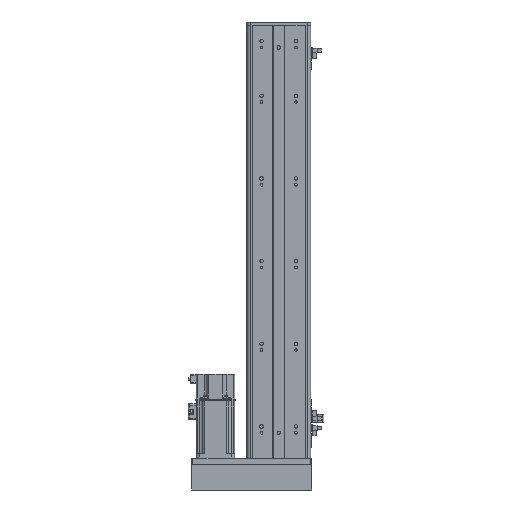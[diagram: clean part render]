
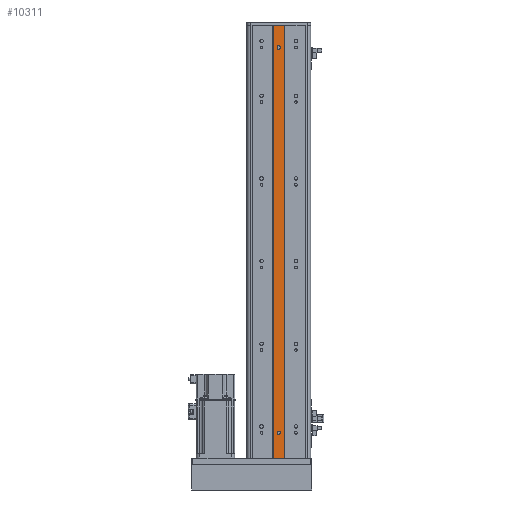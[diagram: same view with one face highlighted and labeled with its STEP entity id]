
A CAD part, front view. The second image highlights one B-rep face of the part: STEP entity #10311.
In plain terms, the highlighted planar face has unit normal (0, -1, 0).
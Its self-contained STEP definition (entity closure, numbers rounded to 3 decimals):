
#237 = DIRECTION ( 'NONE',  ( 0., 1., 0. ) ) ;
#933 = VERTEX_POINT ( 'NONE', #60445 ) ;
#1052 = DIRECTION ( 'NONE',  ( -1., 0., 0. ) ) ;
#1326 = CARTESIAN_POINT ( 'NONE',  ( 0., 1.309, 170. ) ) ;
#1438 = DIRECTION ( 'NONE',  ( 0., 0., -1. ) ) ;
#1920 = ORIENTED_EDGE ( 'NONE', *, *, #32756, .T. ) ;
#2873 = CIRCLE ( 'NONE', #29964, 2.5 ) ;
#3845 = EDGE_CURVE ( 'NONE', #18222, #20869, #33025, .T. ) ;
#4271 = CARTESIAN_POINT ( 'NONE',  ( -9., 1.309, 130. ) ) ;
#4452 = EDGE_CURVE ( 'NONE', #20869, #18222, #20469, .T. ) ;
#4936 = CARTESIAN_POINT ( 'NONE',  ( -9., 1.309, 811. ) ) ;
#5186 = AXIS2_PLACEMENT_3D ( 'NONE', #1326, #60218, #65109 ) ;
#5275 = VECTOR ( 'NONE', #25949, 1000. ) ;
#5305 = EDGE_LOOP ( 'NONE', ( #1920, #18020, #40534, #14090 ) ) ;
#5645 = VECTOR ( 'NONE', #22348, 1000. ) ;
#6003 = CARTESIAN_POINT ( 'NONE',  ( -2.5, 1.309, 170. ) ) ;
#6840 = ORIENTED_EDGE ( 'NONE', *, *, #3845, .T. ) ;
#7053 = EDGE_LOOP ( 'NONE', ( #66229, #12324, #13657, #33065 ) ) ;
#7779 = VECTOR ( 'NONE', #1052, 1000. ) ;
#8377 = CARTESIAN_POINT ( 'NONE',  ( -2.5, 1.309, 811. ) ) ;
#9167 = CARTESIAN_POINT ( 'NONE',  ( 2.5, 1.309, 811. ) ) ;
#10311 = ADVANCED_FACE ( 'NONE', ( #29485, #62158, #15306 ), #15610, .F. ) ;
#11482 = LINE ( 'NONE', #53445, #5645 ) ;
#12324 = ORIENTED_EDGE ( 'NONE', *, *, #68020, .F. ) ;
#12605 = CARTESIAN_POINT ( 'NONE',  ( -2.5, 1.309, 775.5 ) ) ;
#13498 = DIRECTION ( 'NONE',  ( 0., 0., 1. ) ) ;
#13657 = ORIENTED_EDGE ( 'NONE', *, *, #60267, .F. ) ;
#13760 = DIRECTION ( 'NONE',  ( 0., 0., 1. ) ) ;
#14090 = ORIENTED_EDGE ( 'NONE', *, *, #54229, .T. ) ;
#14256 = VECTOR ( 'NONE', #1438, 1000. ) ;
#15306 = FACE_OUTER_BOUND ( 'NONE', #7053, .T. ) ;
#15455 = DIRECTION ( 'NONE',  ( 0., 1., 0. ) ) ;
#15610 = PLANE ( 'NONE',  #16059 ) ;
#16059 = AXIS2_PLACEMENT_3D ( 'NONE', #26807, #237, #37528 ) ;
#16626 = CARTESIAN_POINT ( 'NONE',  ( -9., 1.309, 811. ) ) ;
#16975 = LINE ( 'NONE', #54515, #7779 ) ;
#18020 = ORIENTED_EDGE ( 'NONE', *, *, #54115, .T. ) ;
#18222 = VERTEX_POINT ( 'NONE', #6003 ) ;
#20099 = VECTOR ( 'NONE', #13498, 1000. ) ;
#20469 = CIRCLE ( 'NONE', #29800, 2.5 ) ;
#20869 = VERTEX_POINT ( 'NONE', #30436 ) ;
#20977 = LINE ( 'NONE', #4936, #14256 ) ;
#21784 = DIRECTION ( 'NONE',  ( 0., 0., 1. ) ) ;
#22221 = DIRECTION ( 'NONE',  ( 0., 1., 0. ) ) ;
#22348 = DIRECTION ( 'NONE',  ( 0., 0., -1. ) ) ;
#22678 = CARTESIAN_POINT ( 'NONE',  ( 0., 1.309, 775.5 ) ) ;
#22683 = DIRECTION ( 'NONE',  ( 0., 1., 0. ) ) ;
#22801 = LINE ( 'NONE', #9167, #5275 ) ;
#25798 = VERTEX_POINT ( 'NONE', #31034 ) ;
#25949 = DIRECTION ( 'NONE',  ( 0., 0., -1. ) ) ;
#26807 = CARTESIAN_POINT ( 'NONE',  ( 0., 1.309, 811. ) ) ;
#29485 = FACE_BOUND ( 'NONE', #5305, .T. ) ;
#29800 = AXIS2_PLACEMENT_3D ( 'NONE', #54705, #22683, #13760 ) ;
#29964 = AXIS2_PLACEMENT_3D ( 'NONE', #47897, #15455, #21784 ) ;
#30174 = VERTEX_POINT ( 'NONE', #46977 ) ;
#30436 = CARTESIAN_POINT ( 'NONE',  ( 2.5, 1.309, 170. ) ) ;
#31034 = CARTESIAN_POINT ( 'NONE',  ( -2.5, 1.309, 776.5 ) ) ;
#32756 = EDGE_CURVE ( 'NONE', #52299, #25798, #34236, .T. ) ;
#33025 = CIRCLE ( 'NONE', #5186, 2.5 ) ;
#33065 = ORIENTED_EDGE ( 'NONE', *, *, #65369, .T. ) ;
#34236 = LINE ( 'NONE', #8377, #20099 ) ;
#35574 = VERTEX_POINT ( 'NONE', #57527 ) ;
#35749 = CARTESIAN_POINT ( 'NONE',  ( -9., 1.309, 811. ) ) ;
#37244 = EDGE_CURVE ( 'NONE', #933, #59336, #16975, .T. ) ;
#37433 = EDGE_CURVE ( 'NONE', #30174, #44406, #22801, .T. ) ;
#37528 = DIRECTION ( 'NONE',  ( 0., 0., 1. ) ) ;
#40534 = ORIENTED_EDGE ( 'NONE', *, *, #37433, .T. ) ;
#43078 = VERTEX_POINT ( 'NONE', #16626 ) ;
#44406 = VERTEX_POINT ( 'NONE', #50583 ) ;
#45494 = ORIENTED_EDGE ( 'NONE', *, *, #4452, .T. ) ;
#46977 = CARTESIAN_POINT ( 'NONE',  ( 2.5, 1.309, 776.5 ) ) ;
#47897 = CARTESIAN_POINT ( 'NONE',  ( 0., 1.309, 776.5 ) ) ;
#48037 = EDGE_LOOP ( 'NONE', ( #45494, #6840 ) ) ;
#48110 = VECTOR ( 'NONE', #62491, 1000. ) ;
#50583 = CARTESIAN_POINT ( 'NONE',  ( 2.5, 1.309, 775.5 ) ) ;
#52299 = VERTEX_POINT ( 'NONE', #12605 ) ;
#53445 = CARTESIAN_POINT ( 'NONE',  ( 9., 1.309, 811. ) ) ;
#54115 = EDGE_CURVE ( 'NONE', #25798, #30174, #2873, .T. ) ;
#54229 = EDGE_CURVE ( 'NONE', #44406, #52299, #67235, .T. ) ;
#54515 = CARTESIAN_POINT ( 'NONE',  ( 0., 1.309, 130. ) ) ;
#54705 = CARTESIAN_POINT ( 'NONE',  ( 0., 1.309, 170. ) ) ;
#57527 = CARTESIAN_POINT ( 'NONE',  ( 9., 1.309, 811. ) ) ;
#58686 = AXIS2_PLACEMENT_3D ( 'NONE', #22678, #22221, #59639 ) ;
#59336 = VERTEX_POINT ( 'NONE', #4271 ) ;
#59639 = DIRECTION ( 'NONE',  ( 0., 0., 1. ) ) ;
#60218 = DIRECTION ( 'NONE',  ( 0., 1., 0. ) ) ;
#60267 = EDGE_CURVE ( 'NONE', #43078, #35574, #65711, .T. ) ;
#60445 = CARTESIAN_POINT ( 'NONE',  ( 9., 1.309, 130. ) ) ;
#62158 = FACE_BOUND ( 'NONE', #48037, .T. ) ;
#62491 = DIRECTION ( 'NONE',  ( 1., 0., 0. ) ) ;
#65109 = DIRECTION ( 'NONE',  ( 0., 0., 1. ) ) ;
#65369 = EDGE_CURVE ( 'NONE', #43078, #59336, #20977, .T. ) ;
#65711 = LINE ( 'NONE', #35749, #48110 ) ;
#66229 = ORIENTED_EDGE ( 'NONE', *, *, #37244, .F. ) ;
#67235 = CIRCLE ( 'NONE', #58686, 2.5 ) ;
#68020 = EDGE_CURVE ( 'NONE', #35574, #933, #11482, .T. ) ;
